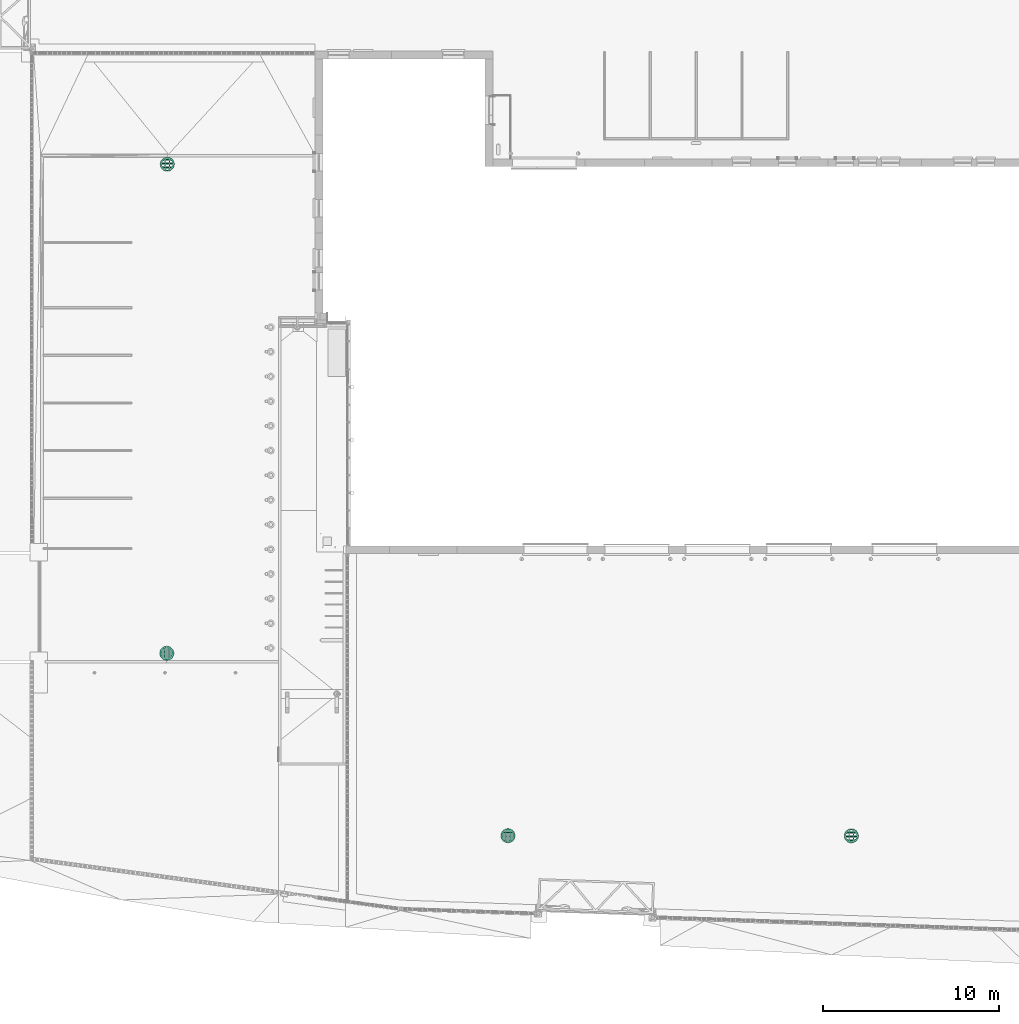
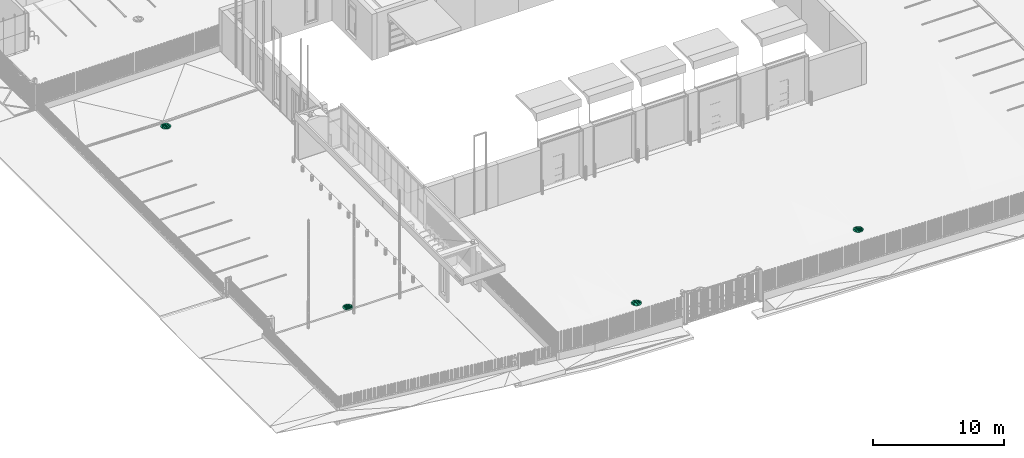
# One storey, part 70 of 77: 4 flow terminals.
"""IFC2X3 building model written with IfcOpenShell, lengths in millimetres."""

import ifcopenshell
import ifcopenshell.guid

model = None  # the IFC model being written
_history = None  # IfcOwnerHistory: only IFC2X3 demands one
_inside = {}  # id of a spatial element -> (the spatial element, [elements in it])
_under = {}  # id of a project, library or spatial element -> (it, [spatial elements below it])
_declared = {}  # id of a project -> (the project, [libraries it declares])
_typed = {}  # id of a type object -> (the type object, [elements of that type])
_made_of = {}  # id of a material, layer set ... -> (it, [elements and type objects made of it])


def new_model(schema):
    """Start an empty IFC model of exactly this schema.

    Asked for "IFC4X3", IfcOpenShell would pick the latest addendum, in which some entities
    have other attributes; the version numbers below select the first issue.
    IFC2X3 requires an IfcOwnerHistory on every rooted entity: one is made here for all.
    """
    global model, _history
    if schema == "IFC4X3":
        model = ifcopenshell.file(schema_version=(4, 3, 0, 0))
    else:
        model = ifcopenshell.file(schema=schema)
    _inside.clear()
    _under.clear()
    _declared.clear()
    _typed.clear()
    _made_of.clear()
    _history = None
    if model.schema == "IFC2X3":
        org = make("IfcOrganization", Name="unknown")
        user = make(
            "IfcPersonAndOrganization",
            ThePerson=make("IfcPerson", FamilyName="unknown"),
            TheOrganization=org,
        )
        app = make(
            "IfcApplication",
            ApplicationDeveloper=org,
            Version="unknown",
            ApplicationFullName="unknown",
            ApplicationIdentifier="unknown",
        )
        _history = make(
            "IfcOwnerHistory",
            OwningUser=user,
            OwningApplication=app,
            ChangeAction="ADDED",
            CreationDate=0,
        )
    return model


def make(cls, **values):
    """One entity of the class cls with the attributes given. An attribute that is None is left unset."""
    return model.create_entity(
        cls, **{name: value for name, value in values.items() if value is not None}
    )


def entity(cls, *values):
    """Any entity or typed value of the class cls, its attributes in the order of the schema. None: left unset."""
    e = model.create_entity(cls)
    for i, value in enumerate(values):
        if value is not None:
            e[i] = value
    return e


def rooted(cls, **values):
    """An entity with a GlobalId (a new one), such as an element, a storey or a relation."""
    return make(cls, GlobalId=ifcopenshell.guid.new(), OwnerHistory=_history, **values)


def si_unit(unit_type, name, prefix=None):
    """IfcSIUnit, for example si_unit("LENGTHUNIT", "METRE", prefix="MILLI")."""
    return make("IfcSIUnit", UnitType=unit_type, Prefix=prefix, Name=name)


def converted_unit(unit_type, name, factor, base, dimensions=None, offset=None):
    """IfcConversionBasedUnit, such as the inch: factor (a typed value) times the base unit."""
    return make(
        "IfcConversionBasedUnit"
        if offset is None
        else "IfcConversionBasedUnitWithOffset",
        ConversionOffset=offset,
        Dimensions=None
        if dimensions is None
        else entity("IfcDimensionalExponents", *dimensions),
        UnitType=unit_type,
        Name=name,
        ConversionFactor=make(
            "IfcMeasureWithUnit", ValueComponent=factor, UnitComponent=base
        ),
    )


def derived_unit(unit_type, elements):
    """IfcDerivedUnit: a product of units, each with its exponent."""
    return make(
        "IfcDerivedUnit",
        Elements=[
            make("IfcDerivedUnitElement", Unit=unit, Exponent=power)
            for unit, power in elements
        ],
        UnitType=unit_type,
    )


def assignment(units):
    """IfcUnitAssignment: the units of a project."""
    return None if units is None else make("IfcUnitAssignment", Units=units)


def point(xyz):
    """IfcCartesianPoint."""
    return None if xyz is None else make("IfcCartesianPoint", Coordinates=xyz)


def direction(xyz):
    """IfcDirection."""
    return None if xyz is None else make("IfcDirection", DirectionRatios=xyz)


def frame(location, z_axis=None, x_axis=None):
    """IfcAxis2Placement3D, a coordinate frame: its origin and axes. An axis left out is left unset."""
    return make(
        "IfcAxis2Placement3D",
        Location=point(location),
        Axis=direction(z_axis),
        RefDirection=direction(x_axis),
    )


def frame_2d(location, x_axis=None):
    """IfcAxis2Placement2D, a coordinate frame in the plane: its origin and x axis."""
    return make(
        "IfcAxis2Placement2D", Location=point(location), RefDirection=direction(x_axis)
    )


def origin():
    """The frame at (0, 0, 0) with its axes left unset."""
    return frame((0.0, 0.0, 0.0))


def origin_2d_with_axis():
    """The frame at (0, 0) in the plane with the x axis (1, 0) written out."""
    return frame_2d((0.0, 0.0), x_axis=(1.0, 0.0))


def place(relative_to, where):
    """IfcLocalPlacement: puts the frame where relative to a parent placement (None: the world)."""
    return make(
        "IfcLocalPlacement", PlacementRelTo=relative_to, RelativePlacement=where
    )


def context(
    kind, dimensions, precision=None, world=None, true_north=None, identifier=None
):
    """IfcGeometricRepresentationContext, for example the 3D "Model" context."""
    return make(
        "IfcGeometricRepresentationContext",
        ContextIdentifier=identifier,
        ContextType=kind,
        CoordinateSpaceDimension=dimensions,
        Precision=precision,
        WorldCoordinateSystem=world,
        TrueNorth=true_north,
    )


def subcontext(parent, identifier, kind, view, scale=None):
    """IfcGeometricRepresentationSubContext, for example "Body" below "Model"."""
    return make(
        "IfcGeometricRepresentationSubContext",
        ContextIdentifier=identifier,
        ContextType=kind,
        ParentContext=parent,
        TargetScale=scale,
        TargetView=view,
    )


def project(units=None, contexts=None):
    """IfcProject with its units and contexts."""
    return rooted(
        "IfcProject",
        Name="project",
        RepresentationContexts=contexts,
        UnitsInContext=assignment(units),
    )


def spatial(cls, under=None, at=None, **own):
    """A site, building, storey or space (cls), placed at a placement, below another one or the project."""
    s = rooted(cls, ObjectPlacement=at, **own)
    if under is not None:
        _under.setdefault(under.id(), (under, []))[1].append(s)
    return s


def polyline(points):
    """IfcPolyline through the points."""
    return make("IfcPolyline", Points=[point(p) for p in points])


def circle_curve(where, radius):
    """IfcCircle in the frame where."""
    return make("IfcCircle", Position=where, Radius=radius)


def parameter(value):
    """IfcParameterValue: where a trimmed curve begins or ends, as a parameter of its basis curve."""
    return model.create_entity("IfcParameterValue", value)


def trimmed(basis, trim1, trim2, sense, master):
    """IfcTrimmedCurve: the piece of a basis curve between two trims."""
    return make(
        "IfcTrimmedCurve",
        BasisCurve=basis,
        Trim1=trim1,
        Trim2=trim2,
        SenseAgreement=sense,
        MasterRepresentation=master,
    )


def segment(curve, same_sense, transition):
    """IfcCompositeCurveSegment."""
    return make(
        "IfcCompositeCurveSegment",
        Transition=transition,
        SameSense=same_sense,
        ParentCurve=curve,
    )


def composite_curve(segments, self_intersect=None):
    """IfcCompositeCurve: segments joined end to end."""
    return make("IfcCompositeCurve", Segments=segments, SelfIntersect=self_intersect)


def outline(outer, holes=None, kind="AREA"):
    """IfcArbitraryClosedProfileDef: a profile drawn as a closed curve; with holes, ...WithVoids."""
    if holes is None:
        return make("IfcArbitraryClosedProfileDef", ProfileType=kind, OuterCurve=outer)
    return make(
        "IfcArbitraryProfileDefWithVoids",
        ProfileType=kind,
        OuterCurve=outer,
        InnerCurves=holes,
    )


def extrude(swept, where, along, depth):
    """IfcExtrudedAreaSolid: the profile swept, set in the frame where, extruded along a direction by depth."""
    return make(
        "IfcExtrudedAreaSolid",
        SweptArea=swept,
        Position=where,
        ExtrudedDirection=direction(along),
        Depth=depth,
    )


def shape(context_of_items, identifier, shape_type, items):
    """IfcShapeRepresentation: the items that make up one representation, for example the "Body"."""
    return make(
        "IfcShapeRepresentation",
        ContextOfItems=context_of_items,
        RepresentationIdentifier=identifier,
        RepresentationType=shape_type,
        Items=items,
    )


def source(mapping_origin, context_of_items, identifier, shape_type, items):
    """IfcRepresentationMap: a shape defined once, which mapped items show again and again."""
    return make(
        "IfcRepresentationMap",
        MappingOrigin=mapping_origin,
        MappedRepresentation=shape(context_of_items, identifier, shape_type, items),
    )


def transform(
    local_origin,
    x_axis=None,
    y_axis=None,
    z_axis=None,
    scale=None,
    scale2=None,
    scale3=None,
    uniform=True,
):
    """IfcCartesianTransformationOperator3D, or its non-uniform kind. x_axis, y_axis, z_axis: its Axis1, 2, 3."""
    if uniform:
        return make(
            "IfcCartesianTransformationOperator3D",
            Axis1=direction(x_axis),
            Axis2=direction(y_axis),
            LocalOrigin=point(local_origin),
            Scale=scale,
            Axis3=direction(z_axis),
        )
    return make(
        "IfcCartesianTransformationOperator3DnonUniform",
        Axis1=direction(x_axis),
        Axis2=direction(y_axis),
        LocalOrigin=point(local_origin),
        Scale=scale,
        Axis3=direction(z_axis),
        Scale2=scale2,
        Scale3=scale3,
    )


def mapped(mapping_source, mapping_target):
    """IfcMappedItem: shows the shape of a source again, moved by a transform."""
    return make(
        "IfcMappedItem", MappingSource=mapping_source, MappingTarget=mapping_target
    )


def material(Name=None, Category=None):
    """IfcMaterial."""
    return make("IfcMaterial", Name=Name, Category=Category)


def made_of(thing, what):
    """Note that an element or type object is made of a material, layer set ...; save() writes the relation."""
    if what is not None:
        _made_of.setdefault(what.id(), (what, []))[1].append(thing)
    return thing


def element(
    cls,
    number,
    at=None,
    inside=None,
    cuts=None,
    type_object=None,
    material=None,
    context=None,
    identifier="Body",
    shape_type=None,
    held_by="IfcProductDefinitionShape",
    body=None,
    shapes=None,
    **own,
):
    """One element of the class cls, such as IfcWall. Its Tag is "e" and its number.

    at: its placement. inside: the storey or other place that contains it. cuts: it is an
    opening in that element (IfcRelVoidsElement). A single representation is given by context,
    identifier, shape_type and body (its items); several are given by shapes. held_by: the class
    of the entity that holds the representations. save() writes the other relations.
    """
    e = rooted(cls, Tag="e%d" % number, ObjectPlacement=at, **own)
    if body is not None:
        shapes = [shape(context, identifier, shape_type, body)]
    if shapes is not None:
        e.Representation = make(held_by, Representations=shapes)
    if inside is not None:
        _inside.setdefault(inside.id(), (inside, []))[1].append(e)
    if cuts is not None:
        rooted(
            "IfcRelVoidsElement", RelatingBuildingElement=cuts, RelatedOpeningElement=e
        )
    if type_object is not None:
        _typed.setdefault(type_object.id(), (type_object, []))[1].append(e)
    return made_of(e, material)


def aggregate(whole, parts):
    """IfcRelAggregates: a whole, such as a stair, and the parts it consists of."""
    return rooted("IfcRelAggregates", RelatingObject=whole, RelatedObjects=parts)


def save(model, path):
    """Write the relations noted so far, then the file.

    IfcRelAggregates (storeys below a building ...), IfcRelContainedInSpatialStructure (elements
    in a storey), IfcRelDefinesByType, IfcRelAssociatesMaterial and IfcRelDeclares: one each for
    every whole, place, type object, material and project.
    """
    for whole, parts in _under.values():
        aggregate(whole, parts)
    for where, things in _inside.values():
        rooted(
            "IfcRelContainedInSpatialStructure",
            RelatedElements=things,
            RelatingStructure=where,
        )
    for kind, things in _typed.values():
        rooted("IfcRelDefinesByType", RelatedObjects=things, RelatingType=kind)
    for what, things in _made_of.values():
        rooted("IfcRelAssociatesMaterial", RelatedObjects=things, RelatingMaterial=what)
    for by, libraries in _declared.values():
        rooted("IfcRelDeclares", RelatingContext=by, RelatedDefinitions=libraries)
    model.write(path)


model = new_model("IFC2X3")

# Units and contexts
model_context = context("Model", 3, precision=0.01, world=origin(), true_north=direction((6.12303176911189e-17, 1.0)))
body_context = subcontext(model_context, "Body", "Model", "MODEL_VIEW")
ifc_project = project(units=[si_unit("LENGTHUNIT", "METRE", prefix="MILLI"), si_unit("AREAUNIT", "SQUARE_METRE"), si_unit("VOLUMEUNIT", "CUBIC_METRE"), converted_unit("PLANEANGLEUNIT", "DEGREE", entity("IfcRatioMeasure", 0.0174532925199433), si_unit("PLANEANGLEUNIT", "RADIAN"), dimensions=[0, 0, 0, 0, 0, 0, 0]), si_unit("MASSUNIT", "GRAM", prefix="KILO"), derived_unit("MASSDENSITYUNIT", [(si_unit("MASSUNIT", "GRAM", prefix="KILO"), 1), (si_unit("LENGTHUNIT", "METRE"), -3)]), si_unit("TIMEUNIT", "SECOND"), si_unit("FREQUENCYUNIT", "HERTZ"), si_unit("THERMODYNAMICTEMPERATUREUNIT", "DEGREE_CELSIUS"), derived_unit("THERMALTRANSMITTANCEUNIT", [(si_unit("MASSUNIT", "GRAM", prefix="KILO"), 1), (si_unit("THERMODYNAMICTEMPERATUREUNIT", "KELVIN"), -1), (si_unit("TIMEUNIT", "SECOND"), -3)]), derived_unit("VOLUMETRICFLOWRATEUNIT", [(si_unit("LENGTHUNIT", "METRE"), 3), (si_unit("TIMEUNIT", "SECOND"), -1)]), si_unit("ELECTRICCURRENTUNIT", "AMPERE"), si_unit("ELECTRICVOLTAGEUNIT", "VOLT"), si_unit("POWERUNIT", "WATT"), si_unit("FORCEUNIT", "NEWTON", prefix="KILO"), si_unit("ILLUMINANCEUNIT", "LUX"), si_unit("LUMINOUSFLUXUNIT", "LUMEN"), si_unit("LUMINOUSINTENSITYUNIT", "CANDELA"), derived_unit("USERDEFINED", [(si_unit("MASSUNIT", "GRAM", prefix="KILO"), -1), (si_unit("LENGTHUNIT", "METRE"), -2), (si_unit("TIMEUNIT", "SECOND"), 3), (si_unit("LUMINOUSFLUXUNIT", "LUMEN"), 1)]), derived_unit("LINEARVELOCITYUNIT", [(si_unit("LENGTHUNIT", "METRE"), 1), (si_unit("TIMEUNIT", "SECOND"), -1)]), si_unit("PRESSUREUNIT", "PASCAL"), derived_unit("USERDEFINED", [(si_unit("LENGTHUNIT", "METRE"), -2), (si_unit("MASSUNIT", "GRAM", prefix="KILO"), 1), (si_unit("TIMEUNIT", "SECOND"), -2)])], contexts=[model_context])

# Site, building, storey
site_placement = place(None, origin())
site = spatial("IfcSite", under=ifc_project, at=site_placement, Name="Default", CompositionType="ELEMENT")
building_placement = place(site_placement, origin())
building = spatial("IfcBuilding", under=site, at=building_placement, CompositionType="ELEMENT")
storey_placement = place(building_placement, origin())
storey = spatial("IfcBuildingStorey", under=building, at=storey_placement, Name="1. KORRUS", CompositionType="ELEMENT", Elevation=0.0)

# Flow terminals
ifc_material = material(Name="malm")
shared_shape = source(origin(), body_context, "Body", "SweptSolid", [
    extrude(outline(composite_curve([segment(trimmed(circle_curve(origin_2d_with_axis(), 400.0), [parameter(0.0)], [parameter(180.0)], True, "PARAMETER"), True, "CONTINUOUS"), segment(trimmed(circle_curve(origin_2d_with_axis(), 400.0), [parameter(180.0)], [parameter(360.0)], True, "PARAMETER"), True, "CONTINUOUS")], self_intersect=False), holes=[composite_curve([segment(trimmed(circle_curve(frame_2d((92.5, 0.0), x_axis=(1.0, 0.0)), 17.5), [parameter(270.0)], [parameter(90.0)], True, "PARAMETER"), False, "CONTINUOUS"), segment(polyline([(92.5, -17.5000000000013), (-92.5, -17.5000000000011)]), True, "CONTINUOUS"), segment(trimmed(circle_curve(frame_2d((-92.5, 0.0), x_axis=(-1.0, 0.0)), 17.5), [parameter(270.0)], [parameter(90.0000000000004)], True, "PARAMETER"), False, "CONTINUOUS"), segment(polyline([(-92.5000000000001, 17.4999999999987), (92.5, 17.4999999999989)]), True, "CONTINUOUS")], self_intersect=False), composite_curve([segment(trimmed(circle_curve(frame_2d((92.5000000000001, 75.0), x_axis=(1.0, 0.0)), 17.5), [parameter(270.0)], [parameter(90.0000000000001)], True, "PARAMETER"), False, "CONTINUOUS"), segment(polyline([(92.5000000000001, 57.4999999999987), (-92.4999999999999, 57.4999999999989)]), True, "CONTINUOUS"), segment(trimmed(circle_curve(frame_2d((-92.4999999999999, 75.0), x_axis=(-1.0, 0.0)), 17.5), [parameter(270.0)], [parameter(90.0000000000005)], True, "PARAMETER"), False, "CONTINUOUS"), segment(polyline([(-92.5, 92.4999999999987), (92.5000000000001, 92.4999999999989)]), True, "CONTINUOUS")], self_intersect=False), composite_curve([segment(trimmed(circle_curve(frame_2d((92.5000000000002, 150.0), x_axis=(1.0, 0.0)), 17.5), [parameter(270.0)], [parameter(90.0000000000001)], True, "PARAMETER"), False, "CONTINUOUS"), segment(polyline([(92.5000000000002, 132.499999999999), (-92.4999999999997, 132.499999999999)]), True, "CONTINUOUS"), segment(trimmed(circle_curve(frame_2d((-92.4999999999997, 150.0), x_axis=(-1.0, 0.0)), 17.5), [parameter(270.0)], [parameter(90.0000000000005)], True, "PARAMETER"), False, "CONTINUOUS"), segment(polyline([(-92.4999999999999, 167.499999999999), (92.5000000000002, 167.499999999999)]), True, "CONTINUOUS")], self_intersect=False), composite_curve([segment(trimmed(circle_curve(frame_2d((92.5000000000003, 225.0), x_axis=(1.0, 0.0)), 17.5), [parameter(270.0)], [parameter(90.0000000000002)], True, "PARAMETER"), False, "CONTINUOUS"), segment(polyline([(92.5000000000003, 207.499999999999), (-92.4999999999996, 207.499999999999)]), True, "CONTINUOUS"), segment(trimmed(circle_curve(frame_2d((-92.4999999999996, 225.0), x_axis=(-1.0, 0.0)), 17.5), [parameter(270.0)], [parameter(90.0000000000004)], True, "PARAMETER"), False, "CONTINUOUS"), segment(polyline([(-92.4999999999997, 242.499999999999), (92.5000000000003, 242.499999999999)]), True, "CONTINUOUS")], self_intersect=False), composite_curve([segment(trimmed(circle_curve(frame_2d((-92.4999999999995, 293.113425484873), x_axis=(1.0, 0.0)), 10.6134254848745), [parameter(125.029046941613)], [parameter(270.0)], True, "PARAMETER"), False, "CONTINUOUS"), segment(trimmed(circle_curve(origin_2d_with_axis(), 317.499999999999), [parameter(71.9090650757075)], [parameter(108.090934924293)], True, "PARAMETER"), False, "CONTINUOUS"), segment(trimmed(circle_curve(frame_2d((92.5000000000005, 293.113425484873), x_axis=(-1.0, 0.0)), 10.6134254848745), [parameter(90.0000000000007)], [parameter(234.970953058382)], True, "PARAMETER"), False, "CONTINUOUS"), segment(polyline([(92.5000000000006, 282.499999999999), (-92.4999999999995, 282.499999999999)]), True, "CONTINUOUS")], self_intersect=False), composite_curve([segment(trimmed(circle_curve(frame_2d((300.0, 0.0), x_axis=(1.0, 0.0)), 17.5), [parameter(270.0)], [parameter(90.0000000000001)], True, "PARAMETER"), False, "CONTINUOUS"), segment(polyline([(300.0, -17.500000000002), (157.5, -17.5000000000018)]), True, "CONTINUOUS"), segment(trimmed(circle_curve(frame_2d((157.5, 0.0), x_axis=(-1.0, 0.0)), 17.5), [parameter(270.0)], [parameter(90.0000000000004)], True, "PARAMETER"), False, "CONTINUOUS"), segment(polyline([(157.5, 17.4999999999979), (300.0, 17.4999999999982)]), True, "CONTINUOUS")], self_intersect=False), composite_curve([segment(trimmed(circle_curve(frame_2d((291.014586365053, 75.0), x_axis=(1.0, 0.0)), 17.5), [parameter(270.0)], [parameter(90.0000000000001)], True, "PARAMETER"), False, "CONTINUOUS"), segment(polyline([(291.014586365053, 57.499999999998), (157.5, 57.4999999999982)]), True, "CONTINUOUS"), segment(trimmed(circle_curve(frame_2d((157.5, 75.0), x_axis=(-1.0, 0.0)), 17.5), [parameter(270.0)], [parameter(90.0000000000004)], True, "PARAMETER"), False, "CONTINUOUS"), segment(polyline([(157.5, 92.4999999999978), (291.014586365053, 92.4999999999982)]), True, "CONTINUOUS")], self_intersect=False), composite_curve([segment(trimmed(circle_curve(frame_2d((262.33253920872, 150.0), x_axis=(1.0, 0.0)), 17.5), [parameter(270.0)], [parameter(90.0000000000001)], True, "PARAMETER"), False, "CONTINUOUS"), segment(polyline([(262.33253920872, 132.499999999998), (157.5, 132.499999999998)]), True, "CONTINUOUS"), segment(trimmed(circle_curve(frame_2d((157.5, 150.0), x_axis=(-1.0, 0.0)), 17.5), [parameter(270.0)], [parameter(90.0000000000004)], True, "PARAMETER"), False, "CONTINUOUS"), segment(polyline([(157.5, 167.499999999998), (262.33253920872, 167.499999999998)]), True, "CONTINUOUS")], self_intersect=False), composite_curve([segment(trimmed(circle_curve(frame_2d((199.154622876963, 225.0), x_axis=(1.0, 0.0)), 17.5), [parameter(270.0)], [parameter(90.0000000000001)], True, "PARAMETER"), False, "CONTINUOUS"), segment(polyline([(199.154622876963, 207.499999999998), (157.5, 207.499999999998)]), True, "CONTINUOUS"), segment(trimmed(circle_curve(frame_2d((157.5, 225.0), x_axis=(-1.0, 0.0)), 17.5), [parameter(270.0)], [parameter(90.0000000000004)], True, "PARAMETER"), False, "CONTINUOUS"), segment(polyline([(157.5, 242.499999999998), (199.154622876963, 242.499999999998)]), True, "CONTINUOUS")], self_intersect=False), composite_curve([segment(polyline([(-291.014586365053, 92.4999999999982), (-157.5, 92.4999999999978)]), True, "CONTINUOUS"), segment(trimmed(circle_curve(frame_2d((-157.5, 75.0), x_axis=(1.0, 0.0)), 17.5), [parameter(270.0)], [parameter(90.0000000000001)], True, "PARAMETER"), False, "CONTINUOUS"), segment(polyline([(-157.5, 57.4999999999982), (-291.014586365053, 57.499999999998)]), True, "CONTINUOUS"), segment(trimmed(circle_curve(frame_2d((-291.014586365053, 75.0), x_axis=(-1.0, 0.0)), 17.5), [parameter(270.0)], [parameter(90.0000000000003)], True, "PARAMETER"), False, "CONTINUOUS")], self_intersect=False), composite_curve([segment(polyline([(-262.33253920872, 167.499999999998), (-157.5, 167.499999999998)]), True, "CONTINUOUS"), segment(trimmed(circle_curve(frame_2d((-157.5, 150.0), x_axis=(1.0, 0.0)), 17.5), [parameter(270.0)], [parameter(90.0000000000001)], True, "PARAMETER"), False, "CONTINUOUS"), segment(polyline([(-157.5, 132.499999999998), (-262.33253920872, 132.499999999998)]), True, "CONTINUOUS"), segment(trimmed(circle_curve(frame_2d((-262.33253920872, 150.0), x_axis=(-1.0, 0.0)), 17.5), [parameter(270.0)], [parameter(90.0000000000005)], True, "PARAMETER"), False, "CONTINUOUS")], self_intersect=False), composite_curve([segment(polyline([(-199.154622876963, 242.499999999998), (-157.5, 242.499999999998)]), True, "CONTINUOUS"), segment(trimmed(circle_curve(frame_2d((-157.5, 225.0), x_axis=(1.0, 0.0)), 17.5), [parameter(270.0)], [parameter(90.0000000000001)], True, "PARAMETER"), False, "CONTINUOUS"), segment(polyline([(-157.5, 207.499999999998), (-199.154622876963, 207.499999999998)]), True, "CONTINUOUS"), segment(trimmed(circle_curve(frame_2d((-199.154622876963, 225.0), x_axis=(-1.0, 0.0)), 17.5), [parameter(270.0)], [parameter(90.0000000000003)], True, "PARAMETER"), False, "CONTINUOUS")], self_intersect=False), composite_curve([segment(polyline([(-300.0, 17.4999999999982), (-157.5, 17.4999999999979)]), True, "CONTINUOUS"), segment(trimmed(circle_curve(frame_2d((-157.5, 0.0), x_axis=(1.0, 0.0)), 17.5), [parameter(270.0)], [parameter(90.0000000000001)], True, "PARAMETER"), False, "CONTINUOUS"), segment(polyline([(-157.5, -17.5000000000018), (-300.0, -17.500000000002)]), True, "CONTINUOUS"), segment(trimmed(circle_curve(frame_2d((-300.0, 0.0), x_axis=(-1.0, 0.0)), 17.5), [parameter(270.0)], [parameter(90.0000000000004)], True, "PARAMETER"), False, "CONTINUOUS")], self_intersect=False), composite_curve([segment(polyline([(92.5000000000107, -92.5000000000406), (-92.4999999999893, -92.5000000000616)]), True, "CONTINUOUS"), segment(trimmed(circle_curve(frame_2d((-92.4999999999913, -75.0), x_axis=(-1.0, 0.0)), 17.5), [parameter(270.0)], [parameter(90.0000000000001)], True, "PARAMETER"), False, "CONTINUOUS"), segment(polyline([(-92.4999999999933, -57.5000000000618), (92.5000000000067, -57.5000000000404)]), True, "CONTINUOUS"), segment(trimmed(circle_curve(frame_2d((92.5000000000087, -75.0), x_axis=(1.0, 0.0)), 17.5), [parameter(270.0)], [parameter(90.0000000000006)], True, "PARAMETER"), False, "CONTINUOUS")], self_intersect=False), composite_curve([segment(polyline([(92.5000000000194, -167.500000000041), (-92.4999999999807, -167.500000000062)]), True, "CONTINUOUS"), segment(trimmed(circle_curve(frame_2d((-92.4999999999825, -150.0), x_axis=(-1.0, 0.0)), 17.5), [parameter(270.0)], [parameter(90.0000000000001)], True, "PARAMETER"), False, "CONTINUOUS"), segment(polyline([(-92.4999999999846, -132.500000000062), (92.5000000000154, -132.50000000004)]), True, "CONTINUOUS"), segment(trimmed(circle_curve(frame_2d((92.5000000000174, -150.0), x_axis=(1.0, 0.0)), 17.5), [parameter(270.0)], [parameter(90.0000000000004)], True, "PARAMETER"), False, "CONTINUOUS")], self_intersect=False), composite_curve([segment(polyline([(92.5000000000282, -242.500000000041), (-92.4999999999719, -242.500000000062)]), True, "CONTINUOUS"), segment(trimmed(circle_curve(frame_2d((-92.4999999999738, -225.0), x_axis=(-1.0, 0.0)), 17.5), [parameter(270.0)], [parameter(90.0)], True, "PARAMETER"), False, "CONTINUOUS"), segment(polyline([(-92.4999999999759, -207.500000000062), (92.5000000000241, -207.50000000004)]), True, "CONTINUOUS"), segment(trimmed(circle_curve(frame_2d((92.5000000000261, -225.0), x_axis=(1.0, 0.0)), 17.5), [parameter(270.0)], [parameter(90.0000000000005)], True, "PARAMETER"), False, "CONTINUOUS")], self_intersect=False), composite_curve([segment(polyline([(-92.4999999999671, -282.500000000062), (92.5000000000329, -282.500000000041)]), True, "CONTINUOUS"), segment(trimmed(circle_curve(frame_2d((92.5000000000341, -293.113425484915), x_axis=(-1.0, 0.0)), 10.6134254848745), [parameter(125.029046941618)], [parameter(270.0)], True, "PARAMETER"), False, "CONTINUOUS"), segment(trimmed(circle_curve(origin_2d_with_axis(), 317.499999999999), [parameter(251.909065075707)], [parameter(288.090934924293)], True, "PARAMETER"), False, "CONTINUOUS"), segment(trimmed(circle_curve(frame_2d((-92.4999999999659, -293.113425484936), x_axis=(1.0, 0.0)), 10.6134254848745), [parameter(90.0000000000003)], [parameter(234.970953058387)], True, "PARAMETER"), False, "CONTINUOUS")], self_intersect=False), composite_curve([segment(polyline([(291.014586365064, -92.5000000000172), (157.500000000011, -92.5000000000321)]), True, "CONTINUOUS"), segment(trimmed(circle_curve(frame_2d((157.500000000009, -75.0), x_axis=(-1.0, 0.0)), 17.5), [parameter(270.0)], [parameter(90.0)], True, "PARAMETER"), False, "CONTINUOUS"), segment(polyline([(157.500000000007, -57.5000000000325), (291.01458636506, -57.5000000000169)]), True, "CONTINUOUS"), segment(trimmed(circle_curve(frame_2d((291.014586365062, -75.0), x_axis=(1.0, 0.0)), 17.5), [parameter(270.0)], [parameter(90.0000000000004)], True, "PARAMETER"), False, "CONTINUOUS")], self_intersect=False), composite_curve([segment(polyline([(262.33253920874, -167.50000000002), (157.500000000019, -167.500000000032)]), True, "CONTINUOUS"), segment(trimmed(circle_curve(frame_2d((157.500000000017, -150.0), x_axis=(-1.0, 0.0)), 17.5), [parameter(270.0)], [parameter(90.0)], True, "PARAMETER"), False, "CONTINUOUS"), segment(polyline([(157.500000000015, -132.500000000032), (262.332539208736, -132.50000000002)]), True, "CONTINUOUS"), segment(trimmed(circle_curve(frame_2d((262.332539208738, -150.0), x_axis=(1.0, 0.0)), 17.5), [parameter(270.0)], [parameter(90.0000000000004)], True, "PARAMETER"), False, "CONTINUOUS")], self_intersect=False), composite_curve([segment(polyline([(199.154622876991, -242.500000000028), (157.500000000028, -242.500000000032)]), True, "CONTINUOUS"), segment(trimmed(circle_curve(frame_2d((157.500000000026, -225.0), x_axis=(-1.0, 0.0)), 17.5), [parameter(270.0)], [parameter(90.0)], True, "PARAMETER"), False, "CONTINUOUS"), segment(polyline([(157.500000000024, -207.500000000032), (199.154622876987, -207.500000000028)]), True, "CONTINUOUS"), segment(trimmed(circle_curve(frame_2d((199.154622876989, -225.0), x_axis=(1.0, 0.0)), 17.5), [parameter(270.0)], [parameter(90.0000000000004)], True, "PARAMETER"), False, "CONTINUOUS")], self_intersect=False), composite_curve([segment(trimmed(circle_curve(frame_2d((-291.014586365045, -75.0), x_axis=(-1.0, 0.0)), 17.5), [parameter(270.0)], [parameter(90.0000000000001)], True, "PARAMETER"), False, "CONTINUOUS"), segment(polyline([(-291.014586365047, -57.5000000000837), (-157.499999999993, -57.5000000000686)]), True, "CONTINUOUS"), segment(trimmed(circle_curve(frame_2d((-157.499999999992, -75.0), x_axis=(1.0, 0.0)), 17.5), [parameter(270.0)], [parameter(90.0000000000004)], True, "PARAMETER"), False, "CONTINUOUS"), segment(polyline([(-157.499999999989, -92.5000000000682), (-291.014586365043, -92.5000000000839)]), True, "CONTINUOUS")], self_intersect=False), composite_curve([segment(trimmed(circle_curve(frame_2d((-262.332539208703, -150.0), x_axis=(-1.0, 0.0)), 17.5), [parameter(270.0)], [parameter(90.0000000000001)], True, "PARAMETER"), False, "CONTINUOUS"), segment(polyline([(-262.332539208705, -132.50000000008), (-157.499999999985, -132.500000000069)]), True, "CONTINUOUS"), segment(trimmed(circle_curve(frame_2d((-157.499999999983, -150.0), x_axis=(1.0, 0.0)), 17.5), [parameter(270.0)], [parameter(90.0000000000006)], True, "PARAMETER"), False, "CONTINUOUS"), segment(polyline([(-157.499999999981, -167.500000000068), (-262.332539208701, -167.500000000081)]), True, "CONTINUOUS")], self_intersect=False), composite_curve([segment(trimmed(circle_curve(frame_2d((-199.154622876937, -225.0), x_axis=(-1.0, 0.0)), 17.5), [parameter(270.0)], [parameter(90.0)], True, "PARAMETER"), False, "CONTINUOUS"), segment(polyline([(-199.154622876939, -207.500000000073), (-157.499999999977, -207.500000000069)]), True, "CONTINUOUS"), segment(trimmed(circle_curve(frame_2d((-157.499999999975, -225.0), x_axis=(1.0, 0.0)), 17.5), [parameter(270.0)], [parameter(90.0000000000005)], True, "PARAMETER"), False, "CONTINUOUS"), segment(polyline([(-157.499999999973, -242.500000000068), (-199.154622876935, -242.500000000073)]), True, "CONTINUOUS")], self_intersect=False)]), frame((0.0, 0.0, -50.0)), (0.0, 0.0, 1.0), 50.0),
])
for number, where in (
    (1, (-8847.97623120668, -6100.45399564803, -220.0)),
    (2, (-8820.00006203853, 21642.4009188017, -260.0)),
    (3, (29981.4797011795, -16452.1339337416, -330.0)),
    (4, (10504.9725490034, -16447.7356503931, -330.0)),
):
    element("IfcFlowTerminal", number, at=place(storey_placement, frame(where)), inside=storey, material=ifc_material, Name="restkaev:restkaev", ObjectType="restkaev", context=body_context, shape_type="MappedRepresentation", body=[
        mapped(shared_shape, transform((0.0, 0.0, 0.0), scale=1.0)),
    ])

save(model, "model.ifc")
